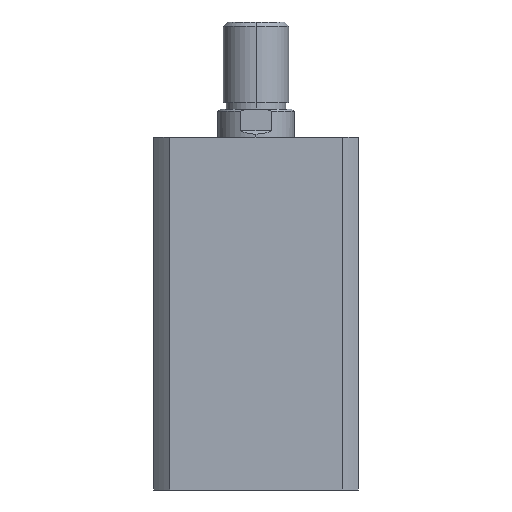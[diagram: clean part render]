
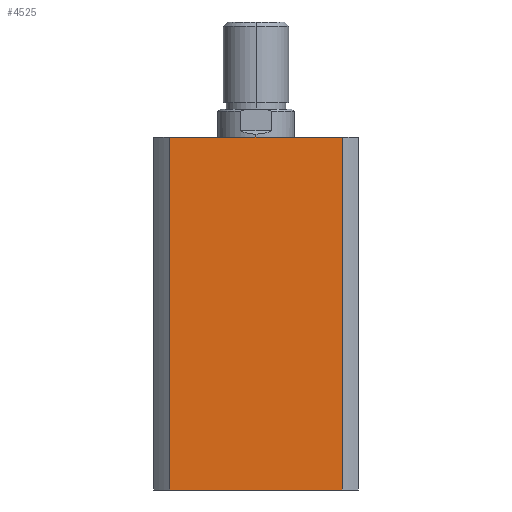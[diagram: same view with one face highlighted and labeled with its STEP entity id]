
A CAD part, left-side view. The second image highlights one B-rep face of the part: STEP entity #4525.
In plain terms, the highlighted planar face has unit normal (-1, 0, 0).
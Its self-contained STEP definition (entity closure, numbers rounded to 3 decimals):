
#607 = CARTESIAN_POINT ( 'NONE',  ( -47., -39.664, 0. ) ) ;
#608 = CARTESIAN_POINT ( 'NONE',  ( -47., 39.664, 0. ) ) ;
#640 = CARTESIAN_POINT ( 'NONE',  ( -47., 39.664, 162. ) ) ;
#659 = CARTESIAN_POINT ( 'NONE',  ( -47., -39.664, 162. ) ) ;
#887 = DIRECTION ( 'NONE',  ( 0., 0., -1. ) ) ;
#894 = CARTESIAN_POINT ( 'NONE',  ( -47., 39.664, 162. ) ) ;
#896 = CARTESIAN_POINT ( 'NONE',  ( -47., 0., 0. ) ) ;
#901 = DIRECTION ( 'NONE',  ( 0., -1., 0. ) ) ;
#902 = CARTESIAN_POINT ( 'NONE',  ( -47., -39.664, 162. ) ) ;
#904 = DIRECTION ( 'NONE',  ( 0., 0., -1. ) ) ;
#987 = DIRECTION ( 'NONE',  ( 0., -1., 0. ) ) ;
#992 = CARTESIAN_POINT ( 'NONE',  ( -47., 0., 162. ) ) ;
#1466 = LINE ( 'NONE', #992, #1468 ) ;
#1468 = VECTOR ( 'NONE', #987, 1000. ) ;
#1506 = LINE ( 'NONE', #896, #1512 ) ;
#1508 = LINE ( 'NONE', #894, #1510 ) ;
#1510 = VECTOR ( 'NONE', #887, 1000. ) ;
#1511 = LINE ( 'NONE', #902, #1514 ) ;
#1512 = VECTOR ( 'NONE', #901, 1000. ) ;
#1514 = VECTOR ( 'NONE', #904, 1000. ) ;
#2559 = EDGE_CURVE ( 'NONE', #3522, #3541, #1466, .T. ) ;
#2592 = EDGE_CURVE ( 'NONE', #3522, #3490, #1508, .T. ) ;
#2593 = EDGE_CURVE ( 'NONE', #3490, #3489, #1506, .T. ) ;
#2594 = EDGE_CURVE ( 'NONE', #3541, #3489, #1511, .T. ) ;
#3051 = FACE_OUTER_BOUND ( 'NONE', #5030, .T. ) ;
#3437 = ORIENTED_EDGE ( 'NONE', *, *, #2594, .F. ) ;
#3438 = ORIENTED_EDGE ( 'NONE', *, *, #2593, .T. ) ;
#3451 = ORIENTED_EDGE ( 'NONE', *, *, #2592, .T. ) ;
#3453 = ORIENTED_EDGE ( 'NONE', *, *, #2559, .F. ) ;
#3489 = VERTEX_POINT ( 'NONE', #607 ) ;
#3490 = VERTEX_POINT ( 'NONE', #608 ) ;
#3522 = VERTEX_POINT ( 'NONE', #640 ) ;
#3541 = VERTEX_POINT ( 'NONE', #659 ) ;
#3939 = AXIS2_PLACEMENT_3D ( 'NONE', #4769, #4777, #4778 ) ;
#4525 = ADVANCED_FACE ( 'NONE', ( #3051 ), #4774, .F. ) ;
#4769 = CARTESIAN_POINT ( 'NONE',  ( -47., 0., 162. ) ) ;
#4774 = PLANE ( 'NONE',  #3939 ) ;
#4777 = DIRECTION ( 'NONE',  ( 1., 0., 0. ) ) ;
#4778 = DIRECTION ( 'NONE',  ( 0., 0., -1. ) ) ;
#5030 = EDGE_LOOP ( 'NONE', ( #3438, #3437, #3453, #3451 ) ) ;
